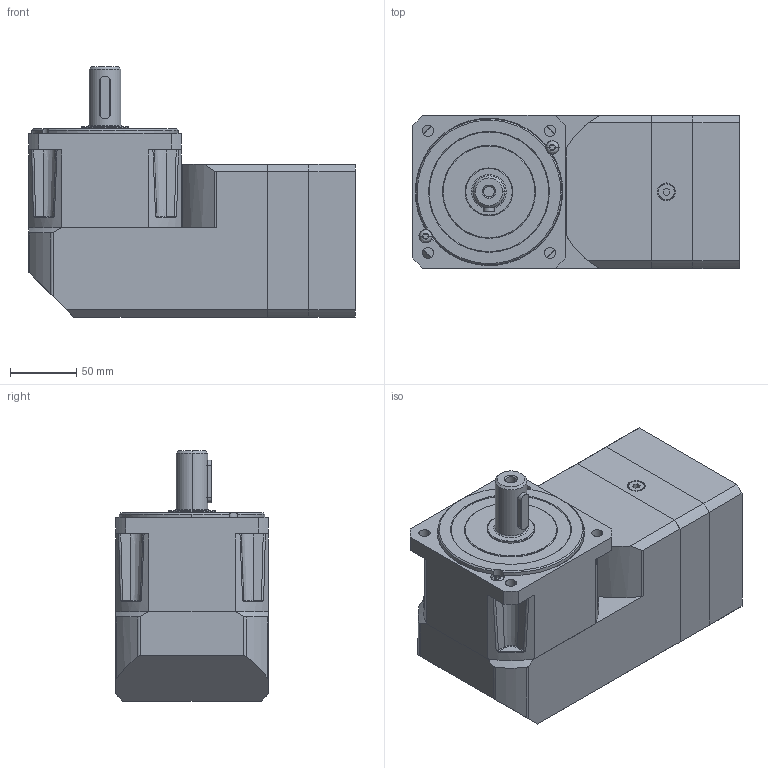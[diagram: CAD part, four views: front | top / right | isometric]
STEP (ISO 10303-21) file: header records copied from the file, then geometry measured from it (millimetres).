
FILE_DESCRIPTION((''),'2;1');
FILE_NAME('PS115-XXX-000-X2_ASM','2009-03-25T',('ata7311'),(''),'PRO/ENGINEER BY PARAMETRIC TECHNOLOGY CORPORATION, 2006300','PRO/ENGINEER BY PARAMETRIC TECHNOLOGY CORPORATION, 2006300','');
FILE_SCHEMA(('CONFIG_CONTROL_DESIGN'));
Products named in the file (16): 13376XXX; 13377000; 13378000; BHC-M5X8; HD202-0026; 13375XXX_ASM; 13379000; 13371000; 13373XXX; 13120003; M6X25; 12292001; 13366XXX_ASM; 13458005; M6X50; PS115-XXX-000-X2_ASM
Assembly tree (20 placements, depth 3):
  PS115-XXX-000-X2_ASM
    13375XXX_ASM
      13376XXX
      13377000
      13378000
      BHC-M5X8  x2
      HD202-0026
    13379000
    13366XXX_ASM
      13371000
      13373XXX
      13120003
      M6X25
      12292001  x2
    13458005
    M6X50  x4
Bounding box: 246 x 115 x 188.3 mm (x, y, z)
Volume: 2258532.8 mm3; surface area: 343299.5 mm2
Topology: 18 solids, 18 shells, 609 faces, 1412 edges, 902 vertices
Faces by surface type: cylinder 245, plane 232, cone 60, bspline 48, torus 24
Entity records: 18023 total; most frequent: CARTESIAN_POINT 5523, DIRECTION 2680, ORIENTED_EDGE 2456, EDGE_CURVE 1228, AXIS2_PLACEMENT_3D 1080, VERTEX_POINT 782, EDGE_LOOP 604, CIRCLE 555
